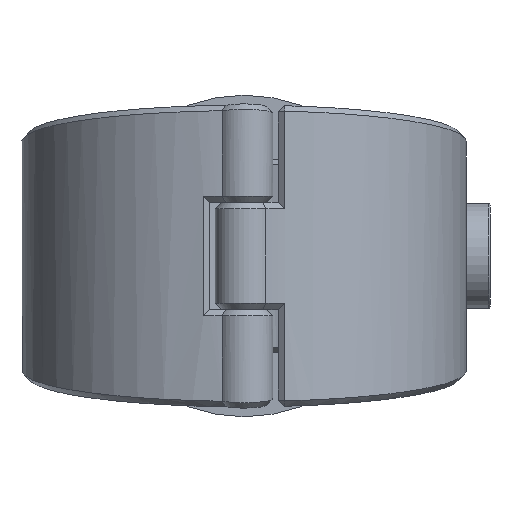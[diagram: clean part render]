
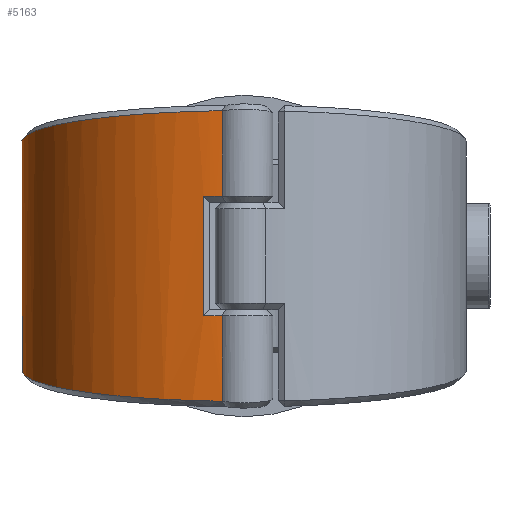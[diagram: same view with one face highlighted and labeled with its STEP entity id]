
A CAD part, front view. The second image highlights one B-rep face of the part: STEP entity #5163.
In plain terms, the highlighted cylindrical face has radius 70.5 mm (diameter 141 mm), a partial arc.
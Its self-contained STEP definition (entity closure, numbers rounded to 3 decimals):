
#171=CYLINDRICAL_SURFACE('',#5540,70.5);
#388=FACE_OUTER_BOUND('',#730,.T.);
#730=EDGE_LOOP('',(#3521,#3522,#3523,#3524,#3525,#3526,#3527,#3528,#3529,
#3530,#3531,#3532));
#1089=B_SPLINE_CURVE_WITH_KNOTS('',3,(#7728,#7729,#7730,#7731),
 .UNSPECIFIED.,.F.,.F.,(4,4),(-0.002,0.),.UNSPECIFIED.);
#1090=B_SPLINE_CURVE_WITH_KNOTS('',3,(#7733,#7734,#7735,#7736),
 .UNSPECIFIED.,.F.,.F.,(4,4),(-3.043,-3.043),
 .UNSPECIFIED.);
#1091=B_SPLINE_CURVE_WITH_KNOTS('',3,(#7738,#7739,#7740,#7741,#7742,#7743,
#7744,#7745,#7746,#7747),.UNSPECIFIED.,.F.,.F.,(4,1,1,1,1,1,1,4),(0.316,
0.619,1.025,1.431,1.837,2.243,
2.65,3.043),.UNSPECIFIED.);
#1092=B_SPLINE_CURVE_WITH_KNOTS('',3,(#7751,#7752,#7753,#7754,#7755,#7756,
#7757,#7758,#7759,#7760),.UNSPECIFIED.,.F.,.F.,(4,1,1,1,1,1,1,4),(-3.043,
-2.65,-2.243,-1.837,-1.431,
-1.025,-0.619,-0.316),.UNSPECIFIED.);
#1093=B_SPLINE_CURVE_WITH_KNOTS('',3,(#7762,#7763,#7764,#7765),
 .UNSPECIFIED.,.F.,.F.,(4,4),(3.043,3.043),
 .UNSPECIFIED.);
#1094=B_SPLINE_CURVE_WITH_KNOTS('',3,(#7767,#7768,#7769,#7770),
 .UNSPECIFIED.,.F.,.F.,(4,4),(-0.397,-0.395),
 .UNSPECIFIED.);
#1317=LINE('',#7662,#1555);
#1323=LINE('',#7726,#1561);
#1324=LINE('',#7749,#1562);
#1325=LINE('',#7771,#1563);
#1555=VECTOR('',#6155,10.);
#1561=VECTOR('',#6201,10.);
#1562=VECTOR('',#6202,10.);
#1563=VECTOR('',#6203,10.);
#1798=CIRCLE('',#5530,70.5);
#1801=CIRCLE('',#5535,70.5);
#2137=VERTEX_POINT('',#7656);
#2138=VERTEX_POINT('',#7661);
#2144=VERTEX_POINT('',#7682);
#2147=VERTEX_POINT('',#7703);
#2151=VERTEX_POINT('',#7725);
#2152=VERTEX_POINT('',#7727);
#2153=VERTEX_POINT('',#7732);
#2154=VERTEX_POINT('',#7737);
#2155=VERTEX_POINT('',#7748);
#2156=VERTEX_POINT('',#7750);
#2157=VERTEX_POINT('',#7761);
#2158=VERTEX_POINT('',#7766);
#2646=EDGE_CURVE('',#2137,#2138,#1317,.T.);
#2659=EDGE_CURVE('',#2144,#2137,#1798,.T.);
#2664=EDGE_CURVE('',#2138,#2147,#1801,.T.);
#2670=EDGE_CURVE('',#2151,#2144,#1323,.T.);
#2671=EDGE_CURVE('',#2152,#2151,#1089,.T.);
#2672=EDGE_CURVE('',#2152,#2153,#1090,.T.);
#2673=EDGE_CURVE('',#2154,#2153,#1091,.T.);
#2674=EDGE_CURVE('',#2155,#2154,#1324,.T.);
#2675=EDGE_CURVE('',#2156,#2155,#1092,.T.);
#2676=EDGE_CURVE('',#2156,#2157,#1093,.T.);
#2677=EDGE_CURVE('',#2158,#2157,#1094,.T.);
#2678=EDGE_CURVE('',#2147,#2158,#1325,.T.);
#3521=ORIENTED_EDGE('',*,*,#2664,.F.);
#3522=ORIENTED_EDGE('',*,*,#2646,.F.);
#3523=ORIENTED_EDGE('',*,*,#2659,.F.);
#3524=ORIENTED_EDGE('',*,*,#2670,.F.);
#3525=ORIENTED_EDGE('',*,*,#2671,.F.);
#3526=ORIENTED_EDGE('',*,*,#2672,.T.);
#3527=ORIENTED_EDGE('',*,*,#2673,.F.);
#3528=ORIENTED_EDGE('',*,*,#2674,.F.);
#3529=ORIENTED_EDGE('',*,*,#2675,.F.);
#3530=ORIENTED_EDGE('',*,*,#2676,.T.);
#3531=ORIENTED_EDGE('',*,*,#2677,.F.);
#3532=ORIENTED_EDGE('',*,*,#2678,.F.);
#5163=ADVANCED_FACE('',(#388),#171,.T.);
#5530=AXIS2_PLACEMENT_3D('',#7698,#6177,#6178);
#5535=AXIS2_PLACEMENT_3D('',#7712,#6187,#6188);
#5540=AXIS2_PLACEMENT_3D('',#7724,#6199,#6200);
#6155=DIRECTION('',(0.,0.,-1.));
#6177=DIRECTION('center_axis',(0.,0.,-1.));
#6178=DIRECTION('ref_axis',(0.312,-0.95,0.));
#6187=DIRECTION('center_axis',(0.,0.,1.));
#6188=DIRECTION('ref_axis',(0.312,-0.95,0.));
#6199=DIRECTION('center_axis',(0.,0.,1.));
#6200=DIRECTION('ref_axis',(-0.312,0.95,0.));
#6201=DIRECTION('',(0.,0.,-1.));
#6202=DIRECTION('',(0.,0.,1.));
#6203=DIRECTION('',(0.,0.,-1.));
#7656=CARTESIAN_POINT('',(-12.822,-69.324,18.975));
#7661=CARTESIAN_POINT('',(-12.822,-69.324,-18.975));
#7662=CARTESIAN_POINT('',(-12.822,-69.324,0.));
#7682=CARTESIAN_POINT('',(-6.922,-70.159,18.975));
#7698=CARTESIAN_POINT('Origin',(0.,0.,18.975));
#7703=CARTESIAN_POINT('',(-6.922,-70.159,-18.975));
#7712=CARTESIAN_POINT('Origin',(0.,0.,-18.975));
#7724=CARTESIAN_POINT('Origin',(0.,0.,0.));
#7725=CARTESIAN_POINT('',(-6.922,-70.159,46.052));
#7726=CARTESIAN_POINT('',(-6.922,-70.159,0.));
#7727=CARTESIAN_POINT('',(-6.906,-70.161,46.063));
#7728=CARTESIAN_POINT('Ctrl Pts',(-6.906,-70.16,46.063));
#7729=CARTESIAN_POINT('Ctrl Pts',(-6.911,-70.16,46.059));
#7730=CARTESIAN_POINT('Ctrl Pts',(-6.916,-70.159,46.055));
#7731=CARTESIAN_POINT('Ctrl Pts',(-6.922,-70.159,46.052));
#7732=CARTESIAN_POINT('',(-6.922,-70.159,46.063));
#7733=CARTESIAN_POINT('Ctrl Pts',(-6.906,-70.161,46.063));
#7734=CARTESIAN_POINT('Ctrl Pts',(-6.912,-70.16,46.063));
#7735=CARTESIAN_POINT('Ctrl Pts',(-6.917,-70.16,46.063));
#7736=CARTESIAN_POINT('Ctrl Pts',(-6.922,-70.159,46.063));
#7737=CARTESIAN_POINT('',(-22.014,66.975,27.098));
#7738=CARTESIAN_POINT('Ctrl Pts',(-22.013,66.972,27.099));
#7739=CARTESIAN_POINT('Ctrl Pts',(-28.791,64.74,27.406));
#7740=CARTESIAN_POINT('Ctrl Pts',(-43.875,57.107,28.458));
#7741=CARTESIAN_POINT('Ctrl Pts',(-62.08,37.41,31.174));
#7742=CARTESIAN_POINT('Ctrl Pts',(-71.8,9.801,34.986));
#7743=CARTESIAN_POINT('Ctrl Pts',(-69.835,-19.354,39.019));
#7744=CARTESIAN_POINT('Ctrl Pts',(-56.532,-45.324,42.617));
#7745=CARTESIAN_POINT('Ctrl Pts',(-34.34,-63.727,45.17));
#7746=CARTESIAN_POINT('Ctrl Pts',(-16.083,-69.254,45.937));
#7747=CARTESIAN_POINT('Ctrl Pts',(-6.922,-70.159,46.063));
#7748=CARTESIAN_POINT('',(-22.014,66.975,-27.098));
#7749=CARTESIAN_POINT('',(-22.014,66.975,0.));
#7750=CARTESIAN_POINT('',(-6.922,-70.159,-46.063));
#7751=CARTESIAN_POINT('Ctrl Pts',(-6.922,-70.159,-46.063));
#7752=CARTESIAN_POINT('Ctrl Pts',(-16.083,-69.254,-45.937));
#7753=CARTESIAN_POINT('Ctrl Pts',(-34.339,-63.727,-45.17));
#7754=CARTESIAN_POINT('Ctrl Pts',(-56.536,-45.326,-42.617));
#7755=CARTESIAN_POINT('Ctrl Pts',(-69.828,-19.353,-39.019));
#7756=CARTESIAN_POINT('Ctrl Pts',(-71.808,9.802,-34.986));
#7757=CARTESIAN_POINT('Ctrl Pts',(-62.076,37.409,-31.174));
#7758=CARTESIAN_POINT('Ctrl Pts',(-43.875,57.107,-28.458));
#7759=CARTESIAN_POINT('Ctrl Pts',(-28.791,64.74,-27.406));
#7760=CARTESIAN_POINT('Ctrl Pts',(-22.013,66.972,-27.099));
#7761=CARTESIAN_POINT('',(-6.906,-70.161,-46.063));
#7762=CARTESIAN_POINT('Ctrl Pts',(-6.922,-70.159,-46.063));
#7763=CARTESIAN_POINT('Ctrl Pts',(-6.917,-70.16,-46.063));
#7764=CARTESIAN_POINT('Ctrl Pts',(-6.912,-70.16,-46.063));
#7765=CARTESIAN_POINT('Ctrl Pts',(-6.906,-70.161,-46.063));
#7766=CARTESIAN_POINT('',(-6.922,-70.159,-46.052));
#7767=CARTESIAN_POINT('Ctrl Pts',(-6.922,-70.159,-46.052));
#7768=CARTESIAN_POINT('Ctrl Pts',(-6.916,-70.159,-46.055));
#7769=CARTESIAN_POINT('Ctrl Pts',(-6.911,-70.16,-46.059));
#7770=CARTESIAN_POINT('Ctrl Pts',(-6.906,-70.16,-46.063));
#7771=CARTESIAN_POINT('',(-6.922,-70.159,0.));
